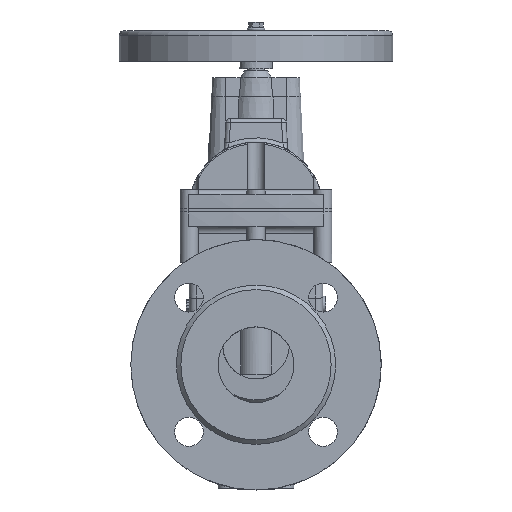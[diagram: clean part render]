
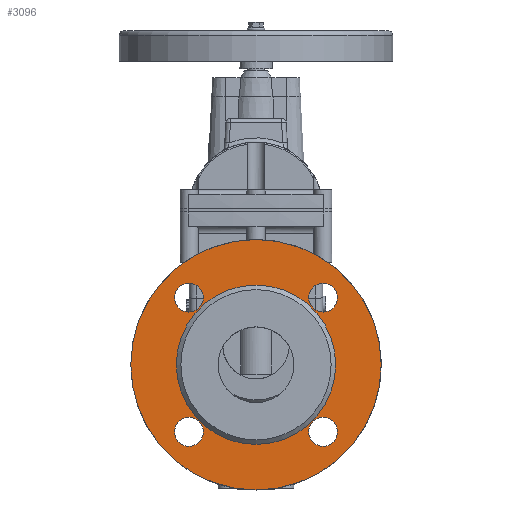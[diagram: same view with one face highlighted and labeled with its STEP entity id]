
A CAD part, left-side view. The second image highlights one B-rep face of the part: STEP entity #3096.
In plain terms, the highlighted planar face has unit normal (-1, 0, 0).
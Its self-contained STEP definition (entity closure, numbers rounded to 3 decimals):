
#3096=ADVANCED_FACE('',(#7950,#7952,#7954,#7956,#7958,#7960),#7962,.F.);
#7950=FACE_BOUND('',#7951,.T.);
#7951=EDGE_LOOP('',(#16467));
#7952=FACE_BOUND('',#7953,.T.);
#7953=EDGE_LOOP('',(#16468));
#7954=FACE_BOUND('',#7955,.T.);
#7955=EDGE_LOOP('',(#16469));
#7956=FACE_BOUND('',#7957,.T.);
#7957=EDGE_LOOP('',(#16470));
#7958=FACE_BOUND('',#7959,.T.);
#7959=EDGE_LOOP('',(#16471));
#7960=FACE_BOUND('',#7961,.T.);
#7961=EDGE_LOOP('',(#16472));
#7962=PLANE('',#7963);
#7963=AXIS2_PLACEMENT_3D('',#7964,#7965,#7966);
#7964=CARTESIAN_POINT('',(-72.,0.,0.));
#7965=DIRECTION('',(1.,0.,0.));
#7966=DIRECTION('',(0.,1.,0.));
#16467=ORIENTED_EDGE('',*,*,#19050,.F.);
#16468=ORIENTED_EDGE('',*,*,#19060,.T.);
#16469=ORIENTED_EDGE('',*,*,#19059,.T.);
#16470=ORIENTED_EDGE('',*,*,#19058,.T.);
#16471=ORIENTED_EDGE('',*,*,#19140,.F.);
#16472=ORIENTED_EDGE('',*,*,#19057,.T.);
#19050=EDGE_CURVE('',#21560,#21560,#21561,.T.);
#19057=EDGE_CURVE('',#21570,#21570,#21571,.T.);
#19058=EDGE_CURVE('',#21572,#21572,#21573,.T.);
#19059=EDGE_CURVE('',#21574,#21574,#21575,.T.);
#19060=EDGE_CURVE('',#21576,#21576,#21577,.T.);
#19140=EDGE_CURVE('',#21698,#21698,#21699,.T.);
#21560=VERTEX_POINT('',#29845);
#21561=CIRCLE('',#29846,82.5);
#21570=VERTEX_POINT('',#29872);
#21571=CIRCLE('',#29873,9.5);
#21572=VERTEX_POINT('',#29877);
#21573=CIRCLE('',#29878,9.5);
#21574=VERTEX_POINT('',#29882);
#21575=CIRCLE('',#29883,9.5);
#21576=VERTEX_POINT('',#29887);
#21577=CIRCLE('',#29888,9.5);
#21698=VERTEX_POINT('',#30179);
#21699=CIRCLE('',#30180,52.5);
#29845=CARTESIAN_POINT('',(-72.,82.5,0.));
#29846=AXIS2_PLACEMENT_3D('',#29847,#29848,#29849);
#29847=CARTESIAN_POINT('',(-72.,0.,0.));
#29848=DIRECTION('',(1.,0.,0.));
#29849=DIRECTION('',(0.,1.,0.));
#29872=CARTESIAN_POINT('',(-72.,53.694,44.194));
#29873=AXIS2_PLACEMENT_3D('',#29874,#29875,#29876);
#29874=CARTESIAN_POINT('',(-72.,44.194,44.194));
#29875=DIRECTION('',(1.,0.,0.));
#29876=DIRECTION('',(0.,1.,0.));
#29877=CARTESIAN_POINT('',(-72.,44.194,-53.694));
#29878=AXIS2_PLACEMENT_3D('',#29879,#29880,#29881);
#29879=CARTESIAN_POINT('',(-72.,44.194,-44.194));
#29880=DIRECTION('',(1.,0.,0.));
#29881=DIRECTION('',(0.,0.,-1.));
#29882=CARTESIAN_POINT('',(-72.,-53.694,-44.194));
#29883=AXIS2_PLACEMENT_3D('',#29884,#29885,#29886);
#29884=CARTESIAN_POINT('',(-72.,-44.194,-44.194));
#29885=DIRECTION('',(1.,0.,0.));
#29886=DIRECTION('',(0.,-1.,0.));
#29887=CARTESIAN_POINT('',(-72.,-44.194,53.694));
#29888=AXIS2_PLACEMENT_3D('',#29889,#29890,#29891);
#29889=CARTESIAN_POINT('',(-72.,-44.194,44.194));
#29890=DIRECTION('',(1.,0.,0.));
#29891=DIRECTION('',(0.,0.,1.));
#30179=CARTESIAN_POINT('',(-72.,-52.5,0.));
#30180=AXIS2_PLACEMENT_3D('',#30181,#30182,#30183);
#30181=CARTESIAN_POINT('',(-72.,0.,0.));
#30182=DIRECTION('',(-1.,0.,0.));
#30183=DIRECTION('',(0.,-1.,0.));
